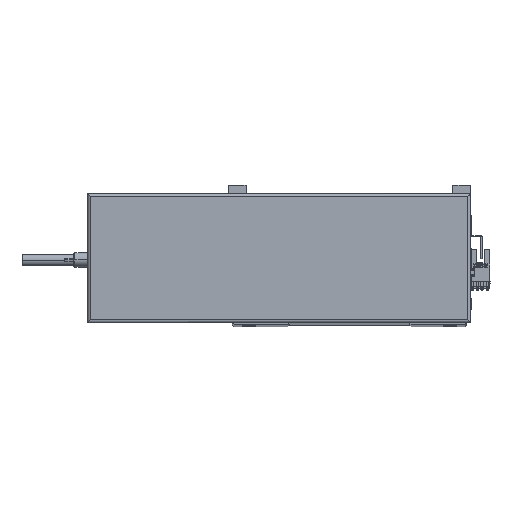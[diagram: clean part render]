
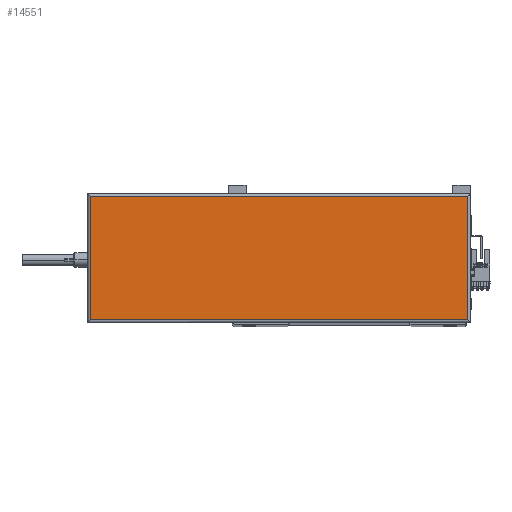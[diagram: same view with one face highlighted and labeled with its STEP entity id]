
A CAD part, top view. The second image highlights one B-rep face of the part: STEP entity #14551.
In plain terms, the highlighted planar face has unit normal (0, 0, 1).
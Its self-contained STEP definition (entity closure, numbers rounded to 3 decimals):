
#2270 = CARTESIAN_POINT ( 'NONE',  ( 2., 0., 44.8 ) ) ;
#2750 = CARTESIAN_POINT ( 'NONE',  ( 133.5, 45., 44.8 ) ) ;
#3069 = VECTOR ( 'NONE', #42544, 1000. ) ;
#4207 = EDGE_LOOP ( 'NONE', ( #37317, #4299, #42877, #20443 ) ) ;
#4299 = ORIENTED_EDGE ( 'NONE', *, *, #4753, .T. ) ;
#4753 = EDGE_CURVE ( 'NONE', #40320, #22254, #42486, .T. ) ;
#6093 = CARTESIAN_POINT ( 'NONE',  ( 265., 2., 44.8 ) ) ;
#6461 = DIRECTION ( 'NONE',  ( 0., -1., 0. ) ) ;
#7662 = DIRECTION ( 'NONE',  ( 1., 0., 0. ) ) ;
#11093 = VECTOR ( 'NONE', #6461, 1000. ) ;
#11836 = VERTEX_POINT ( 'NONE', #25206 ) ;
#13890 = AXIS2_PLACEMENT_3D ( 'NONE', #2750, #50794, #34892 ) ;
#14551 = ADVANCED_FACE ( 'NONE', ( #37092 ), #31003, .T. ) ;
#15373 = VECTOR ( 'NONE', #7662, 1000. ) ;
#18497 = EDGE_CURVE ( 'NONE', #11836, #18965, #18525, .T. ) ;
#18525 = LINE ( 'NONE', #39846, #15373 ) ;
#18965 = VERTEX_POINT ( 'NONE', #6093 ) ;
#20443 = ORIENTED_EDGE ( 'NONE', *, *, #18497, .T. ) ;
#21111 = CARTESIAN_POINT ( 'NONE',  ( 265., 88., 44.8 ) ) ;
#22254 = VERTEX_POINT ( 'NONE', #50917 ) ;
#25007 = CARTESIAN_POINT ( 'NONE',  ( 265., 90., 44.8 ) ) ;
#25177 = DIRECTION ( 'NONE',  ( 0., 1., 0. ) ) ;
#25206 = CARTESIAN_POINT ( 'NONE',  ( 2., 2., 44.8 ) ) ;
#25689 = EDGE_CURVE ( 'NONE', #18965, #40320, #30356, .T. ) ;
#29960 = CARTESIAN_POINT ( 'NONE',  ( 0., 88., 44.8 ) ) ;
#30356 = LINE ( 'NONE', #25007, #50400 ) ;
#31003 = PLANE ( 'NONE',  #13890 ) ;
#31070 = LINE ( 'NONE', #2270, #11093 ) ;
#33763 = EDGE_CURVE ( 'NONE', #22254, #11836, #31070, .T. ) ;
#34892 = DIRECTION ( 'NONE',  ( 1., 0., 0. ) ) ;
#37092 = FACE_OUTER_BOUND ( 'NONE', #4207, .T. ) ;
#37317 = ORIENTED_EDGE ( 'NONE', *, *, #25689, .T. ) ;
#39846 = CARTESIAN_POINT ( 'NONE',  ( 267., 2., 44.8 ) ) ;
#40320 = VERTEX_POINT ( 'NONE', #21111 ) ;
#42486 = LINE ( 'NONE', #29960, #3069 ) ;
#42544 = DIRECTION ( 'NONE',  ( -1., 0., 0. ) ) ;
#42877 = ORIENTED_EDGE ( 'NONE', *, *, #33763, .T. ) ;
#50400 = VECTOR ( 'NONE', #25177, 1000. ) ;
#50794 = DIRECTION ( 'NONE',  ( 0., 0., 1. ) ) ;
#50917 = CARTESIAN_POINT ( 'NONE',  ( 2., 88., 44.8 ) ) ;
